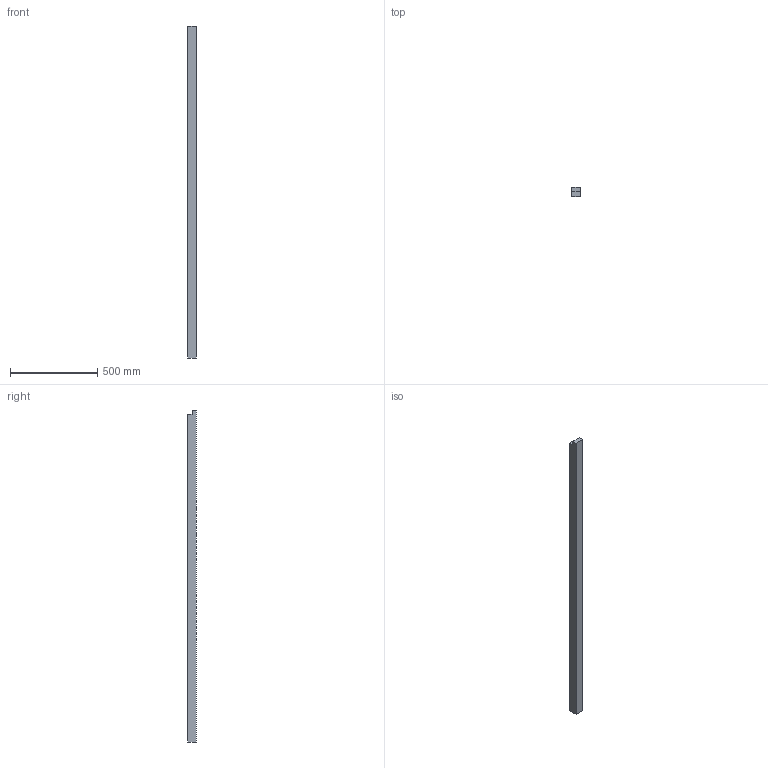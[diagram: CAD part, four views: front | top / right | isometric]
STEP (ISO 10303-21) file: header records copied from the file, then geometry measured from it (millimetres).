
FILE_DESCRIPTION(('Open CASCADE Model'),'2;1');
FILE_NAME('Open CASCADE Shape Model','2026-03-30T20:16:05',('Author'),( 'Open CASCADE'),'Open CASCADE STEP processor 7.8','Open CASCADE 7.8' ,'Unknown');
FILE_SCHEMA(('AUTOMOTIVE_DESIGN { 1 0 10303 214 1 1 1 1 }'));
Length unit declared in the file: millimetre
Products named in the file (1): Open CASCADE STEP translator 7.8 14
Bounding box: 50 x 50 x 1900 mm (x, y, z)
Volume: 4718750 mm3; surface area: 383750 mm2
Topology: 1 solids, 1 shells, 8 faces, 18 edges, 12 vertices
Faces by surface type: plane 8
Entity records: 466 total; most frequent: CARTESIAN_POINT 75, DIRECTION 72, LINE 54, VECTOR 54, ORIENTED_EDGE 36, PCURVE 36, DEFINITIONAL_REPRESENTATION 36, EDGE_CURVE 18
